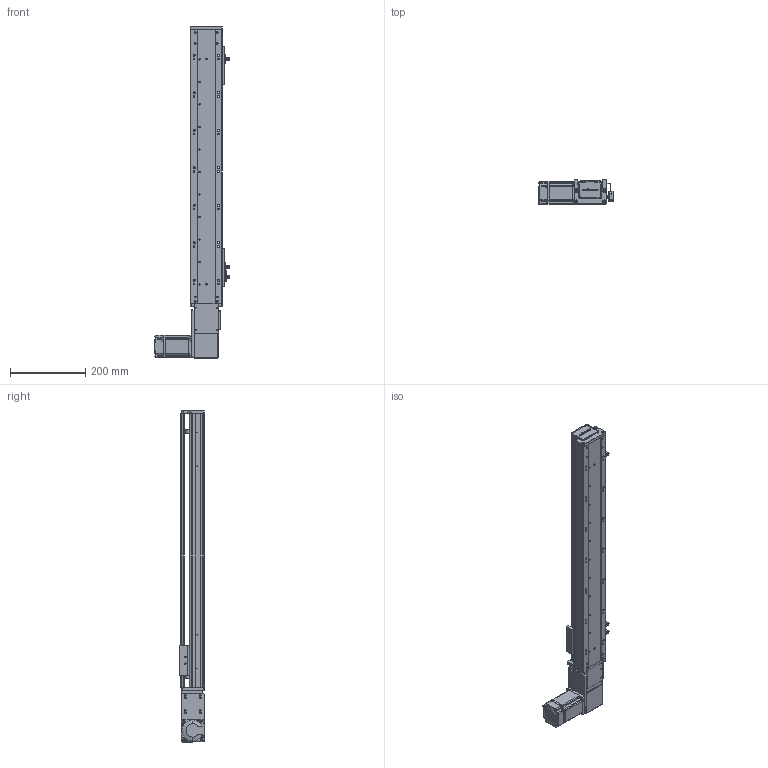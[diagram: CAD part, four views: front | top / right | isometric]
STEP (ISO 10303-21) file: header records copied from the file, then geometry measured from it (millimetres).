
FILE_DESCRIPTION (( 'STEP AP203' ), '1' );
FILE_NAME ('RY80-T-300-LK.SLDASM_550.step', '2021-03-01T01:58:15', ( '盈信电脑' ), ( '东莞市道滘镇水果街19号' ), 'SwSTEP 2.0', 'SolidWorks 2012', '' );
FILE_SCHEMA (( 'CONFIG_CONTROL_DESIGN' ));
Length unit declared in the file: millimetre
Products named in the file (19): RY80-T-300-LK.SLDASM_550; 侂狟200W萇儂; RY80-T萇儂假蚾啣; RY80-T-M4蹟翐; RY80-T肮祭謫俋欶; RY80-T翋肮祭謫裔啣; 滅袉蝶18-10; 1; RY80-T肮祭湍揤輸2; RY80-T肮祭湍揤輸1; RY80-T-翋肮祭謫釱; RY80-T粣創揤踡輸; 覜茼ん672; RY80俋离覜茼え; 672嫖萇羲壽假蚾釱; RY80-T綴裔啣; RY80-T-300-LK倰第菁釱_550; RY80-T肮祭謫臏賑輸; RY80-T-300-LK倰第奻裔啣_550
Assembly tree (24 placements, depth 3):
  RY80-T-300-LK.SLDASM_550
    RY80-T-300-LK倰第菁釱_550
    RY80-T肮祭謫臏賑輸
    RY80-T-300-LK倰第奻裔啣_550
    RY80-T綴裔啣
    672嫖萇羲壽假蚾釱  x2
    覜茼ん672  x3
    RY80俋离覜茼え
    RY80-T-翋肮祭謫釱
    RY80-T肮祭湍揤輸1
    RY80-T肮祭湍揤輸2
    RY80-T粣創揤踡輸
    RY80-T翋肮祭謫裔啣  x2
    滅袉蝶18-10  x2
    侂狟200W萇儂
      1
    RY80-T肮祭謫俋欶
    RY80-T萇儂假蚾啣
    RY80-T-M4蹟翐  x2
Bounding box: 198.7 x 65 x 885 mm (x, y, z)
Volume: 1594116.5 mm3; surface area: 647334.5 mm2
Topology: 23 solids, 23 shells, 2444 faces, 6742 edges, 4379 vertices
Faces by surface type: plane 1317, cylinder 922, cone 149, bspline 56
Entity records: 76747 total; most frequent: CARTESIAN_POINT 18681, ORIENTED_EDGE 11928, DIRECTION 11190, EDGE_CURVE 5964, VERTEX_POINT 3920, AXIS2_PLACEMENT_3D 3753, LINE 3684, VECTOR 3684
